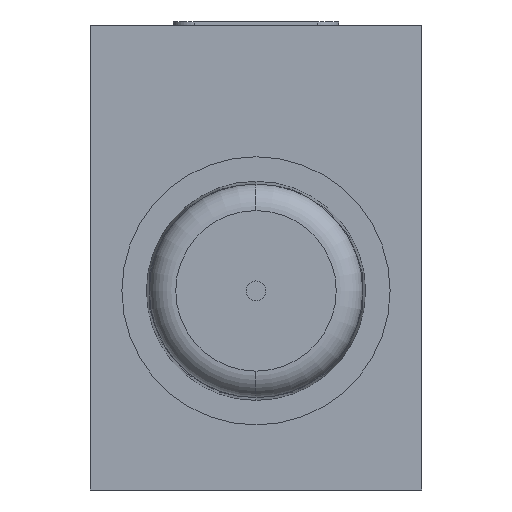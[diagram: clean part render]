
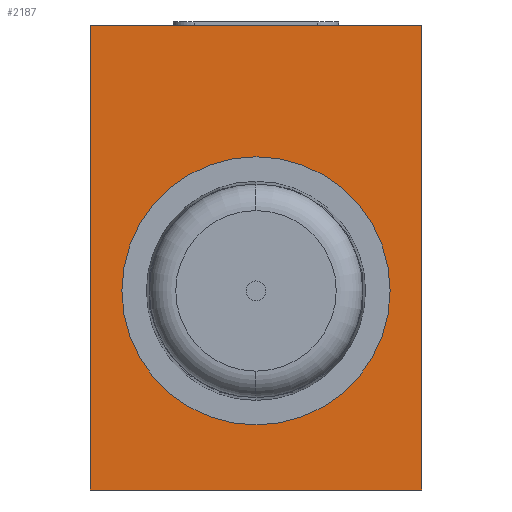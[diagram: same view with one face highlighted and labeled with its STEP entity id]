
A CAD part, left-side view. The second image highlights one B-rep face of the part: STEP entity #2187.
In plain terms, the highlighted planar face has unit normal (-1, 0, 0).
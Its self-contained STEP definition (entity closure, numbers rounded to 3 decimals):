
#47=DIRECTION('',(0.,-1.,0.));
#48=VECTOR('',#47,50.);
#49=CARTESIAN_POINT('',(0.,50.,0.));
#50=LINE('',#49,#48);
#100=DIRECTION('',(0.,0.,-1.));
#101=VECTOR('',#100,70.);
#102=CARTESIAN_POINT('',(0.,0.,0.));
#103=LINE('',#102,#101);
#425=DIRECTION('',(0.,0.,-1.));
#426=VECTOR('',#425,70.);
#427=CARTESIAN_POINT('',(0.,50.,0.));
#428=LINE('',#427,#426);
#432=CARTESIAN_POINT('',(0.,25.,-40.));
#433=DIRECTION('',(1.,0.,0.));
#434=DIRECTION('',(0.,-1.,0.));
#435=AXIS2_PLACEMENT_3D('',#432,#433,#434);
#440=CARTESIAN_POINT('',(0.,25.,-40.));
#441=DIRECTION('',(1.,0.,0.));
#442=DIRECTION('',(0.,1.,0.));
#443=AXIS2_PLACEMENT_3D('',#440,#441,#442);
#469=DIRECTION('',(0.,-1.,0.));
#470=VECTOR('',#469,50.);
#471=CARTESIAN_POINT('',(0.,50.,-70.));
#472=LINE('',#471,#470);
#1716=CARTESIAN_POINT('',(0.,0.,0.));
#1718=VERTEX_POINT('',#1716);
#1722=CARTESIAN_POINT('',(0.,50.,0.));
#1723=VERTEX_POINT('',#1722);
#1724=CARTESIAN_POINT('',(0.,0.,-70.));
#1726=VERTEX_POINT('',#1724);
#1730=CARTESIAN_POINT('',(0.,50.,-70.));
#1731=VERTEX_POINT('',#1730);
#1840=CARTESIAN_POINT('',(0.,4.8,-40.));
#1841=VERTEX_POINT('',#1840);
#1842=CARTESIAN_POINT('',(0.,45.2,-40.));
#1843=VERTEX_POINT('',#1842);
#2169=CARTESIAN_POINT('',(0.,50.,0.));
#2170=DIRECTION('',(-1.,0.,0.));
#2171=DIRECTION('',(0.,-1.,0.));
#2172=AXIS2_PLACEMENT_3D('',#2169,#2170,#2171);
#2173=PLANE('',#2172);
#2174=ORIENTED_EDGE('',*,*,#1991,.T.);
#2175=ORIENTED_EDGE('',*,*,#2022,.T.);
#2177=ORIENTED_EDGE('',*,*,#2176,.F.);
#2178=ORIENTED_EDGE('',*,*,#2107,.F.);
#2179=EDGE_LOOP('',(#2174,#2175,#2177,#2178));
#2180=FACE_OUTER_BOUND('',#2179,.F.);
#2182=ORIENTED_EDGE('',*,*,#2181,.F.);
#2184=ORIENTED_EDGE('',*,*,#2183,.F.);
#2185=EDGE_LOOP('',(#2182,#2184));
#2186=FACE_BOUND('',#2185,.F.);
#436=CIRCLE('',#435,20.2);
#444=CIRCLE('',#443,20.2);
#1991=EDGE_CURVE('',#1723,#1718,#50,.T.);
#2022=EDGE_CURVE('',#1718,#1726,#103,.T.);
#2107=EDGE_CURVE('',#1723,#1731,#428,.T.);
#2176=EDGE_CURVE('',#1731,#1726,#472,.T.);
#2181=EDGE_CURVE('',#1841,#1843,#436,.T.);
#2183=EDGE_CURVE('',#1843,#1841,#444,.T.);
#2187=ADVANCED_FACE('',(#2180,#2186),#2173,.T.);
